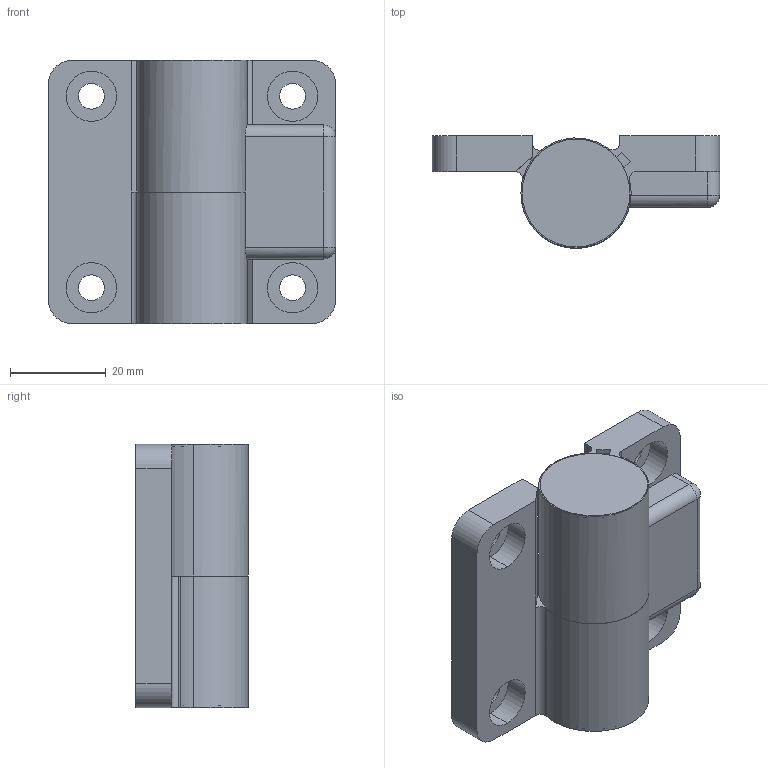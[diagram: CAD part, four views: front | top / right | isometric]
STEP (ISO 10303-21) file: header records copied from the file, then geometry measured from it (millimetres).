
FILE_DESCRIPTION (( 'STEP AP203' ), '1' );
FILE_NAME ('XG11-011.STEP', '2023-12-04T06:29:04', ( '' ), ( '' ), 'SwSTEP 2.0', 'SolidWorks 2020', '' );
FILE_SCHEMA (( 'CONFIG_CONTROL_DESIGN' ));
Length unit declared in the file: millimetre
Products named in the file (3): 衵; 酘; XG11-011
Assembly tree (2 placements, depth 2):
  XG11-011
    酘
    衵
Bounding box: 60 x 23.5 x 55 mm (x, y, z)
Volume: 41454 mm3; surface area: 14476.8 mm2
Topology: 4 solids, 4 shells, 91 faces, 220 edges, 141 vertices
Faces by surface type: cylinder 50, plane 39, sphere 2
Entity records: 3003 total; most frequent: DIRECTION 505, CARTESIAN_POINT 482, ORIENTED_EDGE 436, EDGE_CURVE 218, AXIS2_PLACEMENT_3D 194, VERTEX_POINT 141, LINE 117, VECTOR 117
